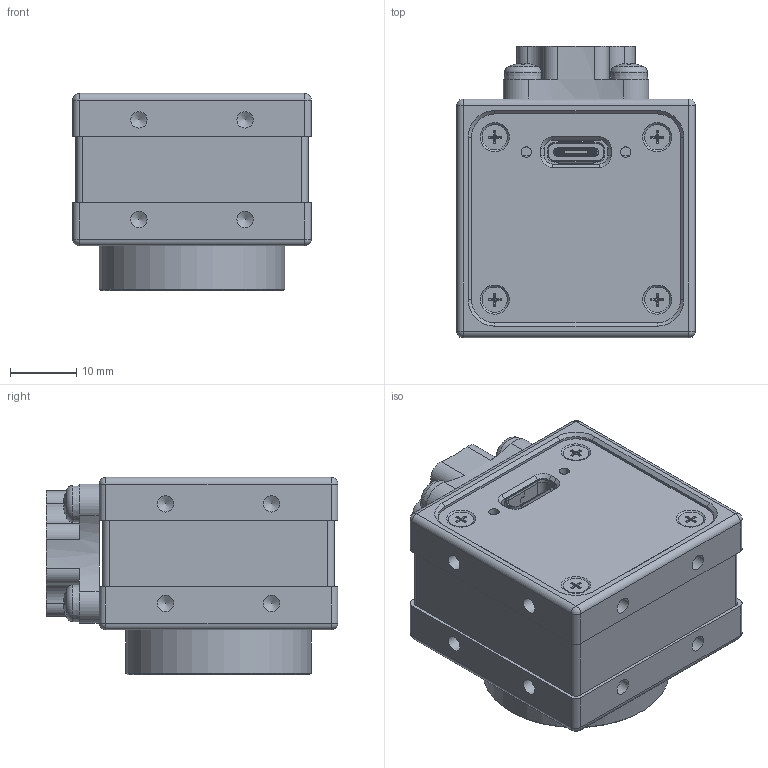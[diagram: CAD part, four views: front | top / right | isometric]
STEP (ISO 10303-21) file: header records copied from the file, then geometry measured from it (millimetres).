
FILE_DESCRIPTION(/* description */ (''),/* implementation_level */ '2;1');
FILE_NAME(/* name */ 'D:\HiDrive\1_Konstruktion\1_KUNDEN\TIS\154-13_MC36-Camera (Opto Precision)\154-13-7-00-00_MC36-IMX CMOS-USB3.1C\IPT und STEP Ableitungen für Kunden\154-13-72\154-13-72_(MC36_USB3.1C_C-FP_18,3_ER-11,7).stp',/* time_stamp */ '2017-10-25T09:39:51+02:00',/* author */ ('khw'),/* organization */ (''),/* preprocessor_version */ 'ST-DEVELOPER v16.5',/* originating_system */ 'Autodesk Inventor 2017',/* authorisation */ '');
FILE_SCHEMA (('AUTOMOTIVE_DESIGN { 1 0 10303 214 3 1 1 }'));
Length unit declared in the file: millimetre
Products named in the file (4): 154-13-72_(MC36_USB3.1C_C-FP_18,3_ER-11,7); 154-13-72_(MC36_USB3.1C_C-FP_18,3_ER-11,7)_1; 154-13-1-00-03_(Tripod Adapter_OP34-240-007-C-FZ-01); ISO 7045 - M3 x 6 - 4.8 - H
Assembly tree (6 placements, depth 2):
  154-13-72_(MC36_USB3.1C_C-FP_18,3_ER-11,7)
    154-13-72_(MC36_USB3.1C_C-FP_18,3_ER-11,7)_1
    154-13-1-00-03_(Tripod Adapter_OP34-240-007-C-FZ-01)
    ISO 7045 - M3 x 6 - 4.8 - H  x4
Bounding box: 36 x 44 x 29.75 mm (x, y, z)
Volume: 17723 mm3; surface area: 17308 mm2
Topology: 7 solids, 8 shells, 1431 faces, 3857 edges, 2489 vertices
Faces by surface type: plane 906, cylinder 319, cone 152, torus 42, sphere 12
Full cylindrical faces by diameter (mm): 0.5 x2, 1 x1, 1.567 x6, 1.755 x4, 2 x4, 2.3 x4, 2.459 x16, 2.729 x4, 3 x4, 3.4 x4, 3.8 x4, 4 x4, 4.917 x1, 4.978 x1, 5 x2, 20.2 x1, 21.9 x1, 22 x2, 24.536 x1, 25.8 x1, 26 x1, 27 x2, 28 x2, 28.05 x1, 28.5 x1
Entity records: 42474 total; most frequent: CARTESIAN_POINT 7672, DIRECTION 6881, ORIENTED_EDGE 6866, EDGE_CURVE 3433, LINE 2505, VECTOR 2505, VERTEX_POINT 2281, AXIS2_PLACEMENT_3D 2188
